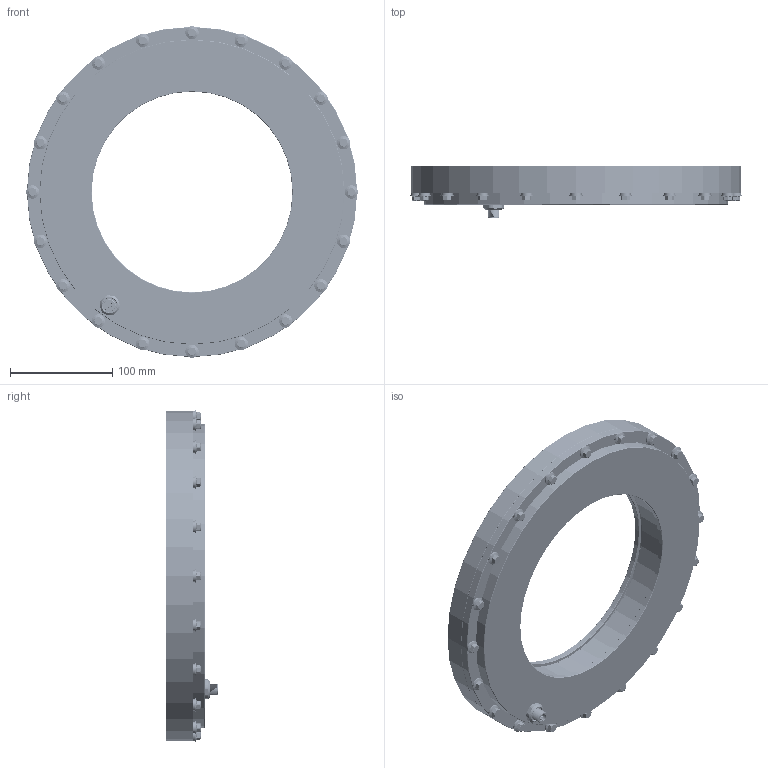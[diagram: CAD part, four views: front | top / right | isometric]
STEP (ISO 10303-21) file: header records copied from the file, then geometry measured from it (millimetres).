
FILE_DESCRIPTION (( 'STEP AP214' ), '1' );
FILE_NAME ('DFLW-200.step', '2018-10-30T12:02:05', ( '' ), ( '' ), 'SwSTEP 2.0', 'SolidWorks 2018', '' );
FILE_SCHEMA (( 'AUTOMOTIVE_DESIGN' ));
Length unit declared in the file: millimetre
Products named in the file (14): TUBE-00576-01-R1; PCB-00577-01; GSKT-00576-02-R1; c-2106091-1-a-3d; GSKT-00576-01-R1; M12_Male; PRT-00576-xx-R2_-01; DFLW-200; M12 PG9 Nut; M12 Nut; PRT-00576-xx-R2_-02; SMT-00577-01; M5-16-Sealed_93635A160; PCB-00576-01
Assembly tree (35 placements, depth 3):
  DFLW-200
    PRT-00576-xx-R2_-01
    PRT-00576-xx-R2_-02
    TUBE-00576-01-R1
    GSKT-00576-01-R1  x2
    GSKT-00576-02-R1
    PCB-00576-01
    SMT-00577-01  x2
      PCB-00577-01
      c-2106091-1-a-3d
    M12 PG9 Nut
    M12_Male
    M5-16-Sealed_93635A160  x20
    M12 Nut
Bounding box: 325.42 x 51.45 x 325.42 mm (x, y, z)
Volume: 992036 mm3; surface area: 485732.2 mm2
Topology: 36 solids, 37 shells, 5366 faces, 12253 edges, 7030 vertices
Faces by surface type: cylinder 2246, cone 1776, plane 1268, bspline 72, torus 4
Entity records: 61767 total; most frequent: CARTESIAN_POINT 29746, ORIENTED_EDGE 5932, DIRECTION 5849, EDGE_CURVE 2966, AXIS2_PLACEMENT_3D 2131, VERTEX_POINT 1854, VECTOR 1587, LINE 1587
